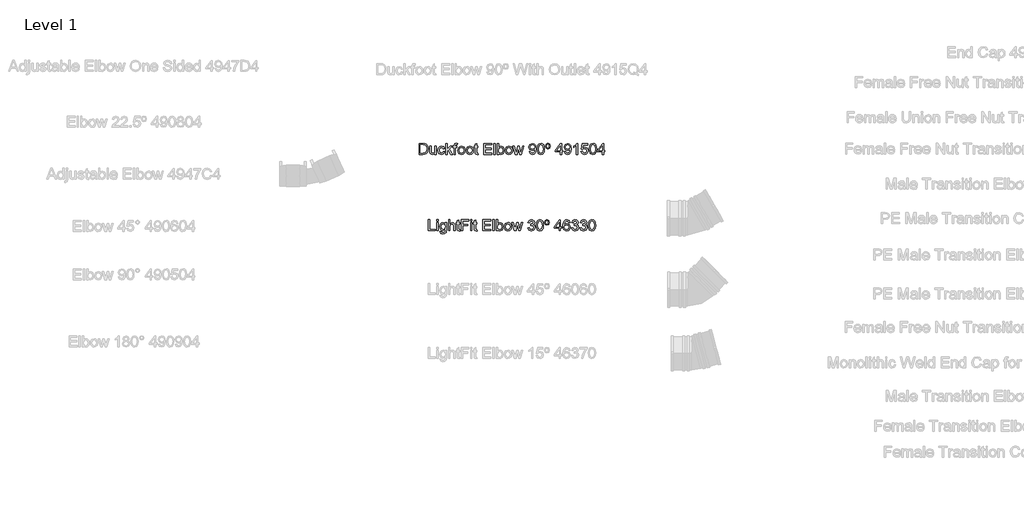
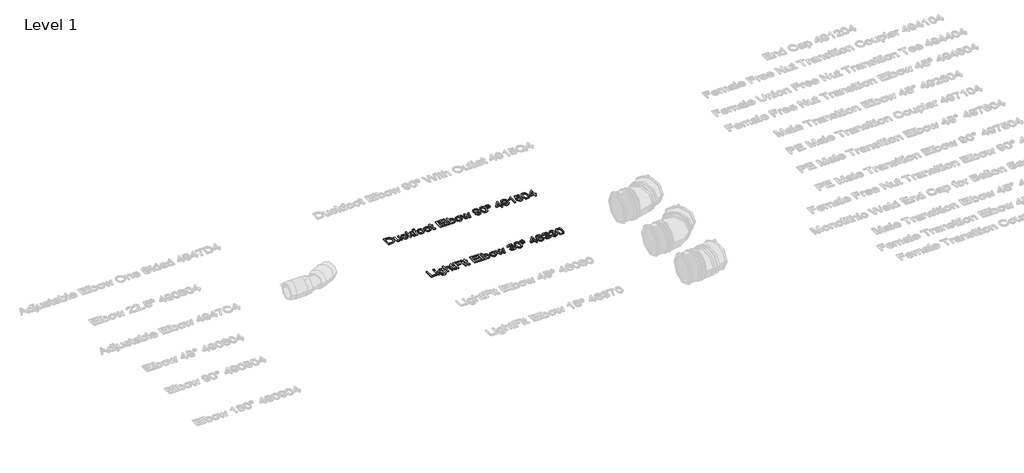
# One storey, part 16 of 38: 2 proxies.
"""IFC4 building model written with IfcOpenShell, lengths in millimetres."""

from ifc_helpers import new_model, si_unit, origin, origin_with_axes, place, context, project, spatial, polyline, outline, extrude, element, save

model = new_model("IFC4")

# Units and contexts
model_context = context("Model", 3, world=origin())
ifc_project = project(units=[si_unit("LENGTHUNIT", "METRE", prefix="MILLI")], contexts=[model_context])

# Site, building, storey
site = spatial("IfcSite", under=ifc_project)
building = spatial("IfcBuilding", under=site)
storey = spatial("IfcBuildingStorey", under=building, Name="Level 1", Elevation=0.0)

# Proxies
placement = place(None, origin())
element("IfcBuildingElementProxy", 1, Name="100 mm Arial", ObjectType="100 mm Arial", at=placement, inside=storey, context=model_context, shape_type="SweptSolid", body=[
    extrude(outline(polyline([(13189.6125419, 4561.9520671), (13189.6125419, 4621.0289902), (13209.9923496, 4621.0289902), (13220.5356188, 4620.1780287), (13229.2183111, 4615.9520671), (13236.2135034, 4605.8559133), (13238.5356188, 4591.8078364), (13236.9635034, 4579.8871633), (13232.9250419, 4571.2837979), (13227.5308111, 4565.9256248), (13220.470715, 4562.9616825), (13210.9731188, 4561.9520671), (13189.6125419, 4561.9520671)]), holes=[polyline([(13196.9971573, 4569.3366825), (13210.064465, 4569.3366825), (13219.5692727, 4570.4039902), (13225.0500419, 4573.4184133), (13229.5428304, 4580.7525479), (13231.1510034, 4591.923221), (13227.9995611, 4605.9136056), (13220.3336957, 4612.4616825), (13209.8625419, 4613.6443748), (13196.9971573, 4613.6443748), (13196.9971573, 4569.3366825)])]), origin_with_axes(), (0.0, 0.0, 1.0), 5.0),
    extrude(outline(polyline([(13275.4586957, 4561.9520671), (13275.4586957, 4569.4087979), (13269.6750419, 4563.1239421), (13262.1317727, 4561.0289902), (13255.1870611, 4562.500144), (13250.3985996, 4566.1924517), (13248.1990804, 4571.6299517), (13247.766388, 4578.4953364), (13247.766388, 4605.3366825), (13255.1510034, 4605.3366825), (13255.1510034, 4581.9712979), (13255.5981188, 4574.4424517), (13258.5187919, 4570.0217787), (13264.0211957, 4568.4136056), (13270.1870611, 4570.0578364), (13274.2615804, 4574.5362017), (13275.4586957, 4582.7645671), (13275.4586957, 4605.3366825), (13282.8433111, 4605.3366825), (13282.8433111, 4561.9520671), (13275.4586957, 4561.9520671)])), origin_with_axes(), (0.0, 0.0, 1.0), 5.0),
    extrude(outline(polyline([(13320.689465, 4577.6443748), (13328.0740804, 4576.7212979), (13322.1461957, 4565.1900479), (13310.4346573, 4561.0289902), (13302.579489, 4562.4803123), (13296.4370611, 4566.8342787), (13292.4725179, 4573.8997835), (13291.1510034, 4583.485721), (13293.408215, 4595.7525479), (13300.2880227, 4603.6347594), (13310.3336957, 4606.2597594), (13321.5620611, 4602.6539902), (13327.1510034, 4592.4136056), (13319.766388, 4591.4905287), (13316.3409073, 4597.0217787), (13310.391388, 4598.875144), (13301.8312919, 4595.2261056), (13298.5356188, 4583.687644), (13301.7591765, 4572.0410094), (13310.189465, 4568.4136056), (13317.1485996, 4570.6780287), (13320.689465, 4577.6443748)])), origin_with_axes(), (0.0, 0.0, 1.0), 5.0),
    extrude(outline(polyline([(13334.5356188, 4561.9520671), (13334.5356188, 4621.0289902), (13341.9202342, 4621.0289902), (13341.9202342, 4589.2837979), (13358.4779265, 4605.3366825), (13368.689465, 4605.3366825), (13351.9298496, 4589.0818748), (13369.6125419, 4561.9520671), (13360.9875419, 4561.9520671), (13346.6365804, 4583.9472594), (13341.9202342, 4579.375144), (13341.9202342, 4561.9520671), (13334.5356188, 4561.9520671)])), origin_with_axes(), (0.0, 0.0, 1.0), 5.0),
    extrude(outline(polyline([(13377.9202342, 4561.9520671), (13377.9202342, 4597.9520671), (13371.4586957, 4597.9520671), (13371.4586957, 4605.3366825), (13377.9202342, 4605.3366825), (13377.9202342, 4609.7068748), (13378.6990804, 4615.8655287), (13382.4779265, 4620.2645671), (13389.9202342, 4621.9520671), (13396.6558111, 4621.1443748), (13395.5740804, 4614.2212979), (13391.3192727, 4614.5674517), (13386.6678304, 4613.3414902), (13385.3048496, 4608.7693748), (13385.3048496, 4605.3366825), (13393.6125419, 4605.3366825), (13393.6125419, 4597.9520671), (13385.3048496, 4597.9520671), (13385.3048496, 4561.9520671), (13377.9202342, 4561.9520671)])), origin_with_axes(), (0.0, 0.0, 1.0), 5.0),
    extrude(outline(polyline([(13398.2279265, 4583.6443748), (13399.8252823, 4594.1047114), (13404.6173496, 4601.4568748), (13417.626965, 4606.2597594), (13425.3847775, 4604.79762), (13431.5812919, 4600.4112017), (13435.6431909, 4593.4466585), (13436.9971573, 4584.250144), (13434.6029265, 4571.110721), (13427.6293688, 4563.6756248), (13417.626965, 4561.0289902), (13409.7754025, 4562.485721), (13403.5860996, 4566.8559133), (13399.5674698, 4573.9664902), (13398.2279265, 4583.6443748)]), holes=[polyline([(13405.6125419, 4583.6587979), (13409.0308111, 4572.2140864), (13417.626965, 4568.4136056), (13426.1942727, 4572.235721), (13429.6125419, 4583.8895671), (13426.172638, 4595.0746633), (13417.626965, 4598.875144), (13409.0308111, 4595.0890864), (13405.6125419, 4583.6587979)])]), origin_with_axes(), (0.0, 0.0, 1.0), 5.0),
    extrude(outline(polyline([(13443.4586957, 4583.6443748), (13445.0560515, 4594.1047114), (13449.8481188, 4601.4568748), (13462.8577342, 4606.2597594), (13470.6155467, 4604.79762), (13476.8120611, 4600.4112017), (13480.8739602, 4593.4466585), (13482.2279265, 4584.250144), (13479.8336957, 4571.110721), (13472.860138, 4563.6756248), (13462.8577342, 4561.0289902), (13455.0061717, 4562.485721), (13448.8168688, 4566.8559133), (13444.798239, 4573.9664902), (13443.4586957, 4583.6443748)]), holes=[polyline([(13450.8433111, 4583.6587979), (13454.2615804, 4572.2140864), (13462.8577342, 4568.4136056), (13471.4250419, 4572.235721), (13474.8433111, 4583.8895671), (13471.4034073, 4595.0746633), (13462.8577342, 4598.875144), (13454.2615804, 4595.0890864), (13450.8433111, 4583.6587979)])]), origin_with_axes(), (0.0, 0.0, 1.0), 5.0),
    extrude(outline(polyline([(13506.2279265, 4568.110721), (13507.1510034, 4561.735721), (13501.626965, 4561.0289902), (13495.439465, 4562.2549517), (13492.3529265, 4565.4712979), (13491.4586957, 4573.8511056), (13491.4586957, 4597.9520671), (13485.9202342, 4597.9520671), (13485.9202342, 4605.3366825), (13491.4586957, 4605.3366825), (13491.4586957, 4615.8799517), (13498.8433111, 4620.2212979), (13498.8433111, 4605.3366825), (13506.2279265, 4605.3366825), (13506.2279265, 4597.9520671), (13498.8433111, 4597.9520671), (13498.8433111, 4574.0674517), (13499.2327342, 4570.2597594), (13500.4947534, 4568.9112017), (13503.0115804, 4568.4136056), (13506.2279265, 4568.110721)])), origin_with_axes(), (0.0, 0.0, 1.0), 5.0),
    extrude(outline(polyline([(13537.6125419, 4561.9520671), (13537.6125419, 4621.0289902), (13580.0740804, 4621.0289902), (13580.0740804, 4613.6443748), (13544.9971573, 4613.6443748), (13544.9971573, 4596.1059133), (13578.2279265, 4596.1059133), (13578.2279265, 4588.7212979), (13544.9971573, 4588.7212979), (13544.9971573, 4569.3366825), (13580.9971573, 4569.3366825), (13580.9971573, 4561.9520671), (13537.6125419, 4561.9520671)])), origin_with_axes(), (0.0, 0.0, 1.0), 5.0),
    extrude(outline(polyline([(13591.1510034, 4561.9520671), (13591.1510034, 4621.0289902), (13598.5356188, 4621.0289902), (13598.5356188, 4561.9520671), (13591.1510034, 4561.9520671)])), origin_with_axes(), (0.0, 0.0, 1.0), 5.0),
    extrude(outline(polyline([(13616.9971573, 4561.9520671), (13609.6125419, 4561.9520671), (13609.6125419, 4621.0289902), (13616.9971573, 4621.0289902), (13616.9971573, 4599.1203364), (13622.1678304, 4604.4749037), (13628.5933111, 4606.2597594), (13635.9923496, 4604.6515864), (13641.7327342, 4600.1299517), (13645.2591765, 4593.0987017), (13646.5356188, 4584.2934133), (13645.2141044, 4574.4352402), (13641.2495611, 4567.1011056), (13635.4316525, 4562.547019), (13628.5500419, 4561.0289902), (13621.9839361, 4562.9869229), (13616.9971573, 4568.860721), (13616.9971573, 4561.9520671)]), holes=[polyline([(13616.9971573, 4583.9472594), (13619.016388, 4573.6203364), (13627.9154265, 4568.4136056), (13635.8192727, 4572.250144), (13639.1510034, 4583.687644), (13635.9562919, 4595.1684133), (13628.2327342, 4598.875144), (13620.328888, 4595.0386056), (13616.9971573, 4583.9472594)])]), origin_with_axes(), (0.0, 0.0, 1.0), 5.0),
    extrude(outline(polyline([(13652.9971573, 4583.6443748), (13654.594513, 4594.1047114), (13659.3865804, 4601.4568748), (13672.3961957, 4606.2597594), (13680.1540082, 4604.79762), (13686.3505227, 4600.4112017), (13690.4124217, 4593.4466585), (13691.766388, 4584.250144), (13689.3721573, 4571.110721), (13682.3985996, 4563.6756248), (13672.3961957, 4561.0289902), (13664.5446332, 4562.485721), (13658.3553304, 4566.8559133), (13654.3367005, 4573.9664902), (13652.9971573, 4583.6443748)]), holes=[polyline([(13660.3817727, 4583.6587979), (13663.8000419, 4572.2140864), (13672.3961957, 4568.4136056), (13680.9635034, 4572.235721), (13684.3817727, 4583.8895671), (13680.9418688, 4595.0746633), (13672.3961957, 4598.875144), (13663.8000419, 4595.0890864), (13660.3817727, 4583.6587979)])]), origin_with_axes(), (0.0, 0.0, 1.0), 5.0),
    extrude(outline(polyline([(13707.2711957, 4561.9520671), (13694.0740804, 4605.3366825), (13701.7471573, 4605.3366825), (13709.2327342, 4580.0241825), (13711.4683111, 4570.9809133), (13713.3000419, 4579.6924517), (13719.2567727, 4605.3366825), (13728.0548496, 4605.3366825), (13733.9827342, 4579.7645671), (13735.6125419, 4571.875144), (13737.9490804, 4580.1972594), (13745.4490804, 4605.3366825), (13753.1510034, 4605.3366825), (13739.8529265, 4561.9520671), (13730.9250419, 4561.9520671), (13725.2567727, 4587.3943748), (13723.6125419, 4595.3270671), (13716.3000419, 4561.9520671), (13707.2711957, 4561.9520671)])), origin_with_axes(), (0.0, 0.0, 1.0), 5.0),
    extrude(outline(polyline([(13780.3817727, 4576.7212979), (13787.766388, 4577.6443748), (13791.0836957, 4570.5987017), (13797.3721573, 4568.4136056), (13803.3505227, 4569.8198556), (13807.4034073, 4573.5770671), (13809.8192727, 4579.9953364), (13810.8865804, 4588.562644), (13804.9370611, 4584.4087979), (13796.8385034, 4582.2597594), (13784.4995611, 4587.5097594), (13779.4586957, 4601.3414902), (13784.7447534, 4615.6203364), (13797.9923496, 4621.0289902), (13808.5139842, 4617.9424517), (13815.7543688, 4609.1443748), (13818.2279265, 4592.6155287), (13815.7615804, 4574.6804325), (13808.4274457, 4564.5193748), (13797.0260034, 4561.0289902), (13785.6750419, 4565.1467787), (13780.3817727, 4576.7212979)]), holes=[polyline([(13810.8433111, 4601.5145671), (13807.6558111, 4610.3703364), (13799.189465, 4613.6443748), (13790.3048496, 4610.1179325), (13786.8433111, 4600.9809133), (13790.1173496, 4592.7958171), (13798.9875419, 4589.6443748), (13807.5043688, 4592.7958171), (13810.8433111, 4601.5145671)])]), origin_with_axes(), (0.0, 0.0, 1.0), 5.0),
    extrude(outline(polyline([(13824.689465, 4591.0145671), (13826.860138, 4608.0121633), (13833.3072534, 4617.812644), (13844.0740804, 4621.0289902), (13852.6990804, 4619.125144), (13858.6558111, 4613.6371633), (13862.1173496, 4604.8967787), (13863.4586957, 4591.0145671), (13861.3096573, 4574.0890864), (13854.8841765, 4564.266971), (13844.0740804, 4561.0289902), (13836.4010034, 4562.4352402), (13830.5740804, 4566.6539902), (13826.1606188, 4576.6455767), (13824.689465, 4591.0145671)]), holes=[polyline([(13832.0740804, 4591.0289902), (13835.5356188, 4572.6900479), (13844.0740804, 4568.4136056), (13852.6125419, 4572.704471), (13856.0740804, 4591.0289902), (13852.7279265, 4609.1587979), (13843.9875419, 4613.6443748), (13835.6510034, 4609.6924517), (13832.0740804, 4591.0289902)])]), origin_with_axes(), (0.0, 0.0, 1.0), 5.0),
    extrude(outline(polyline([(13881.4586957, 4621.9520671), (13891.1077342, 4617.8991825), (13894.8433111, 4606.7068748), (13891.0860996, 4595.5434133), (13881.501965, 4591.4905287), (13871.8312919, 4595.4640864), (13868.0740804, 4606.5337979), (13871.8096573, 4617.8991825), (13881.4586957, 4621.9520671)]), holes=[polyline([(13881.4586957, 4616.4136056), (13877.110138, 4614.141971), (13875.4586957, 4606.7212979), (13877.1389842, 4599.3655287), (13881.4586957, 4597.0289902), (13885.7928304, 4599.3655287), (13887.4586957, 4606.923221), (13885.7784073, 4614.0987017), (13881.4586957, 4616.4136056)])]), origin_with_axes(), (0.0, 0.0, 1.0), 5.0),
    extrude(outline(polyline([(13947.4586957, 4561.9520671), (13947.4586957, 4575.798221), (13920.689465, 4575.798221), (13920.689465, 4583.1828364), (13949.3048496, 4620.1059133), (13954.8433111, 4620.1059133), (13954.8433111, 4583.1828364), (13962.2279265, 4583.1828364), (13962.2279265, 4575.798221), (13954.8433111, 4575.798221), (13954.8433111, 4561.9520671), (13947.4586957, 4561.9520671)]), holes=[polyline([(13947.4586957, 4583.1828364), (13947.4586957, 4606.000144), (13929.7760034, 4583.1828364), (13947.4586957, 4583.1828364)])]), origin_with_axes(), (0.0, 0.0, 1.0), 5.0),
    extrude(outline(polyline([(13969.6125419, 4576.7212979), (13976.9971573, 4577.6443748), (13980.314465, 4570.5987017), (13986.6029265, 4568.4136056), (13992.5812919, 4569.8198556), (13996.6341765, 4573.5770671), (13999.0500419, 4579.9953364), (14000.1173496, 4588.562644), (13994.1678304, 4584.4087979), (13986.0692727, 4582.2597594), (13973.7303304, 4587.5097594), (13968.689465, 4601.3414902), (13973.9755227, 4615.6203364), (13987.2231188, 4621.0289902), (13997.7447534, 4617.9424517), (14004.985138, 4609.1443748), (14007.4586957, 4592.6155287), (14004.9923496, 4574.6804325), (13997.658215, 4564.5193748), (13986.2567727, 4561.0289902), (13974.9058111, 4565.1467787), (13969.6125419, 4576.7212979)]), holes=[polyline([(14000.0740804, 4601.5145671), (13996.8865804, 4610.3703364), (13988.4202342, 4613.6443748), (13979.5356188, 4610.1179325), (13976.0740804, 4600.9809133), (13979.3481188, 4592.7958171), (13988.2183111, 4589.6443748), (13996.735138, 4592.7958171), (14000.0740804, 4601.5145671)])]), origin_with_axes(), (0.0, 0.0, 1.0), 5.0),
    extrude(outline(polyline([(14041.6125419, 4561.9520671), (14034.2279265, 4561.9520671), (14034.2279265, 4607.9905287), (14027.2327342, 4603.0073556), (14019.4586957, 4599.2789902), (14019.4586957, 4606.2597594), (14030.283215, 4613.1684133), (14036.8529265, 4621.0289902), (14041.6125419, 4621.0289902), (14041.6125419, 4561.9520671)])), origin_with_axes(), (0.0, 0.0, 1.0), 5.0),
    extrude(outline(polyline([(14059.1510034, 4577.6443748), (14066.5356188, 4578.5674517), (14070.2567727, 4570.9592787), (14077.9731188, 4568.4136056), (14087.2327342, 4571.954471), (14090.5356188, 4581.3511056), (14087.4418688, 4590.1203364), (14078.0885034, 4593.3366825), (14071.6053304, 4592.0530287), (14067.4586957, 4588.7212979), (14060.0740804, 4589.6443748), (14066.5356188, 4620.1059133), (14095.1510034, 4620.1059133), (14095.1510034, 4612.7212979), (14072.5067727, 4612.7212979), (14069.3481188, 4596.4520671), (14080.1510034, 4600.7212979), (14092.7784073, 4595.4280287), (14097.9202342, 4581.812644), (14093.2904265, 4568.110721), (14086.641388, 4562.7994229), (14077.9442727, 4561.0289902), (14064.9130227, 4565.579471), (14059.1510034, 4577.6443748)])), origin_with_axes(), (0.0, 0.0, 1.0), 5.0),
    extrude(outline(polyline([(14104.3817727, 4591.0145671), (14106.5524457, 4608.0121633), (14112.9995611, 4617.812644), (14123.766388, 4621.0289902), (14132.391388, 4619.125144), (14138.3481188, 4613.6371633), (14141.8096573, 4604.8967787), (14143.1510034, 4591.0145671), (14141.001965, 4574.0890864), (14134.5764842, 4564.266971), (14123.766388, 4561.0289902), (14116.0933111, 4562.4352402), (14110.266388, 4566.6539902), (14105.8529265, 4576.6455767), (14104.3817727, 4591.0145671)]), holes=[polyline([(14111.766388, 4591.0289902), (14115.2279265, 4572.6900479), (14123.766388, 4568.4136056), (14132.3048496, 4572.704471), (14135.766388, 4591.0289902), (14132.4202342, 4609.1587979), (14123.6798496, 4613.6443748), (14115.3433111, 4609.6924517), (14111.766388, 4591.0289902)])]), origin_with_axes(), (0.0, 0.0, 1.0), 5.0),
    extrude(outline(polyline([(14173.6125419, 4561.9520671), (14173.6125419, 4575.798221), (14146.8433111, 4575.798221), (14146.8433111, 4583.1828364), (14175.4586957, 4620.1059133), (14180.9971573, 4620.1059133), (14180.9971573, 4583.1828364), (14188.3817727, 4583.1828364), (14188.3817727, 4575.798221), (14180.9971573, 4575.798221), (14180.9971573, 4561.9520671), (14173.6125419, 4561.9520671)]), holes=[polyline([(14173.6125419, 4583.1828364), (14173.6125419, 4606.000144), (14155.9298496, 4583.1828364), (14173.6125419, 4583.1828364)])]), origin_with_axes(), (0.0, 0.0, 1.0), 5.0),
])
element("IfcBuildingElementProxy", 2, Name="100 mm Arial", ObjectType="100 mm Arial", at=placement, inside=storey, context=model_context, shape_type="SweptSolid", body=[
    extrude(outline(polyline([(13240.3817727, 4151.5291703), (13240.3817727, 4210.6060934), (13247.766388, 4210.6060934), (13247.766388, 4158.9137857), (13277.3048496, 4158.9137857), (13277.3048496, 4151.5291703), (13240.3817727, 4151.5291703)])), origin_with_axes(), (0.0, 0.0, 1.0), 5.0),
    extrude(outline(polyline([(13284.689465, 4203.221478), (13284.689465, 4210.6060934), (13292.0740804, 4210.6060934), (13292.0740804, 4203.221478), (13284.689465, 4203.221478)])), origin_with_axes(), (0.0, 0.0, 1.0), 5.0),
    extrude(outline(polyline([(13284.689465, 4151.5291703), (13284.689465, 4194.9137857), (13292.0740804, 4194.9137857), (13292.0740804, 4151.5291703), (13284.689465, 4151.5291703)])), origin_with_axes(), (0.0, 0.0, 1.0), 5.0),
    extrude(outline(polyline([(13301.3048496, 4147.8368626), (13308.689465, 4146.9137857), (13311.0836957, 4143.0195549), (13318.251965, 4141.3753242), (13325.8096573, 4143.2359011), (13329.4154265, 4148.4570549), (13329.9202342, 4157.0676319), (13318.3817727, 4151.5291703), (13310.7681909, 4153.1409492), (13305.0909073, 4157.9762857), (13300.3817727, 4173.4378242), (13302.4947534, 4184.8825357), (13308.610138, 4192.9810934), (13318.0211957, 4195.8368626), (13324.6089361, 4194.221478), (13329.9202342, 4189.3753242), (13329.9202342, 4194.9137857), (13337.3048496, 4194.9137857), (13337.3048496, 4157.4570549), (13335.2856188, 4143.1133049), (13328.8889842, 4136.4426319), (13318.1077342, 4133.9907088), (13305.8264842, 4137.4450357), (13301.3048496, 4147.8368626)]), holes=[polyline([(13307.766388, 4173.9426319), (13310.9178304, 4162.5123434), (13318.828888, 4158.9137857), (13326.7255227, 4162.4907088), (13329.9202342, 4173.7262857), (13326.6317727, 4184.7383049), (13318.7135034, 4188.4522472), (13310.9610996, 4184.7959972), (13307.766388, 4173.9426319)])]), origin_with_axes(), (0.0, 0.0, 1.0), 5.0),
    extrude(outline(polyline([(13348.3817727, 4151.5291703), (13348.3817727, 4210.6060934), (13355.766388, 4210.6060934), (13355.766388, 4188.8849395), (13361.5248015, 4194.0988819), (13368.6173496, 4195.8368626), (13376.9106188, 4193.940228), (13381.9442727, 4188.6974395), (13383.4586957, 4178.9907088), (13383.4586957, 4151.5291703), (13376.0740804, 4151.5291703), (13376.0740804, 4178.2262857), (13373.7231188, 4186.0147472), (13367.0596573, 4188.4522472), (13361.0091765, 4186.8080165), (13356.970715, 4182.3512857), (13355.766388, 4174.5772472), (13355.766388, 4151.5291703), (13348.3817727, 4151.5291703)])), origin_with_axes(), (0.0, 0.0, 1.0), 5.0),
    extrude(outline(polyline([(13409.3048496, 4157.6878242), (13410.2279265, 4151.3128242), (13404.703888, 4150.6060934), (13398.516388, 4151.8320549), (13395.4298496, 4155.0484011), (13394.5356188, 4163.4282088), (13394.5356188, 4187.5291703), (13388.9971573, 4187.5291703), (13388.9971573, 4194.9137857), (13394.5356188, 4194.9137857), (13394.5356188, 4205.4570549), (13401.9202342, 4209.7984011), (13401.9202342, 4194.9137857), (13409.3048496, 4194.9137857), (13409.3048496, 4187.5291703), (13401.9202342, 4187.5291703), (13401.9202342, 4163.6445549), (13402.3096573, 4159.8368626), (13403.5716765, 4158.4883049), (13406.0885034, 4157.9907088), (13409.3048496, 4157.6878242)])), origin_with_axes(), (0.0, 0.0, 1.0), 5.0),
    extrude(outline(polyline([(13417.6125419, 4151.5291703), (13417.6125419, 4210.6060934), (13457.3048496, 4210.6060934), (13457.3048496, 4203.221478), (13424.9971573, 4203.221478), (13424.9971573, 4185.6830165), (13452.689465, 4185.6830165), (13452.689465, 4178.2984011), (13424.9971573, 4178.2984011), (13424.9971573, 4151.5291703), (13417.6125419, 4151.5291703)])), origin_with_axes(), (0.0, 0.0, 1.0), 5.0),
    extrude(outline(polyline([(13466.5356188, 4151.5291703), (13466.5356188, 4194.9137857), (13473.9202342, 4194.9137857), (13473.9202342, 4151.5291703), (13466.5356188, 4151.5291703)])), origin_with_axes(), (0.0, 0.0, 1.0), 5.0),
    extrude(outline(polyline([(13466.5356188, 4203.221478), (13466.5356188, 4210.6060934), (13473.9202342, 4210.6060934), (13473.9202342, 4203.221478), (13466.5356188, 4203.221478)])), origin_with_axes(), (0.0, 0.0, 1.0), 5.0),
    extrude(outline(polyline([(13500.689465, 4157.6878242), (13501.6125419, 4151.3128242), (13496.0885034, 4150.6060934), (13489.9010034, 4151.8320549), (13486.814465, 4155.0484011), (13485.9202342, 4163.4282088), (13485.9202342, 4187.5291703), (13480.3817727, 4187.5291703), (13480.3817727, 4194.9137857), (13485.9202342, 4194.9137857), (13485.9202342, 4205.4570549), (13493.3048496, 4209.7984011), (13493.3048496, 4194.9137857), (13500.689465, 4194.9137857), (13500.689465, 4187.5291703), (13493.3048496, 4187.5291703), (13493.3048496, 4163.6445549), (13493.6942727, 4159.8368626), (13494.9562919, 4158.4883049), (13497.4731188, 4157.9907088), (13500.689465, 4157.6878242)])), origin_with_axes(), (0.0, 0.0, 1.0), 5.0),
    extrude(outline(polyline([(13532.0740804, 4151.5291703), (13532.0740804, 4210.6060934), (13574.5356188, 4210.6060934), (13574.5356188, 4203.221478), (13539.4586957, 4203.221478), (13539.4586957, 4185.6830165), (13572.689465, 4185.6830165), (13572.689465, 4178.2984011), (13539.4586957, 4178.2984011), (13539.4586957, 4158.9137857), (13575.4586957, 4158.9137857), (13575.4586957, 4151.5291703), (13532.0740804, 4151.5291703)])), origin_with_axes(), (0.0, 0.0, 1.0), 5.0),
    extrude(outline(polyline([(13585.6125419, 4151.5291703), (13585.6125419, 4210.6060934), (13592.9971573, 4210.6060934), (13592.9971573, 4151.5291703), (13585.6125419, 4151.5291703)])), origin_with_axes(), (0.0, 0.0, 1.0), 5.0),
    extrude(outline(polyline([(13611.4586957, 4151.5291703), (13604.0740804, 4151.5291703), (13604.0740804, 4210.6060934), (13611.4586957, 4210.6060934), (13611.4586957, 4188.6974395), (13616.6293688, 4194.0520069), (13623.0548496, 4195.8368626), (13630.453888, 4194.2286895), (13636.1942727, 4189.7070549), (13639.720715, 4182.6758049), (13640.9971573, 4173.8705165), (13639.6756429, 4164.0123434), (13635.7110996, 4156.6782088), (13629.8931909, 4152.1241222), (13623.0115804, 4150.6060934), (13616.4454746, 4152.5640261), (13611.4586957, 4158.4378242), (13611.4586957, 4151.5291703)]), holes=[polyline([(13611.4586957, 4173.5243626), (13613.4779265, 4163.1974395), (13622.376965, 4157.9907088), (13630.2808111, 4161.8272472), (13633.6125419, 4173.2647472), (13630.4178304, 4184.7455165), (13622.6942727, 4188.4522472), (13614.7904265, 4184.6157088), (13611.4586957, 4173.5243626)])]), origin_with_axes(), (0.0, 0.0, 1.0), 5.0),
    extrude(outline(polyline([(13647.4586957, 4173.221478), (13649.0560515, 4183.6818145), (13653.8481188, 4191.033978), (13666.8577342, 4195.8368626), (13674.6155467, 4194.3747232), (13680.8120611, 4189.9883049), (13684.8739602, 4183.0237617), (13686.2279265, 4173.8272472), (13683.8336957, 4160.6878242), (13676.860138, 4153.252728), (13666.8577342, 4150.6060934), (13659.0061717, 4152.0628242), (13652.8168688, 4156.4330165), (13648.798239, 4163.5435934), (13647.4586957, 4173.221478)]), holes=[polyline([(13654.8433111, 4173.2359011), (13658.2615804, 4161.7911895), (13666.8577342, 4157.9907088), (13675.4250419, 4161.8128242), (13678.8433111, 4173.4666703), (13675.4034073, 4184.6517665), (13666.8577342, 4188.4522472), (13658.2615804, 4184.6661895), (13654.8433111, 4173.2359011)])]), origin_with_axes(), (0.0, 0.0, 1.0), 5.0),
    extrude(outline(polyline([(13701.7327342, 4151.5291703), (13688.5356188, 4194.9137857), (13696.2086957, 4194.9137857), (13703.6942727, 4169.6012857), (13705.9298496, 4160.5580165), (13707.7615804, 4169.2695549), (13713.7183111, 4194.9137857), (13722.516388, 4194.9137857), (13728.4442727, 4169.3416703), (13730.0740804, 4161.4522472), (13732.4106188, 4169.7743626), (13739.9106188, 4194.9137857), (13747.6125419, 4194.9137857), (13734.314465, 4151.5291703), (13725.3865804, 4151.5291703), (13719.7183111, 4176.971478), (13718.0740804, 4184.9041703), (13710.7615804, 4151.5291703), (13701.7327342, 4151.5291703)])), origin_with_axes(), (0.0, 0.0, 1.0), 5.0),
    extrude(outline(polyline([(13773.9202342, 4167.221478), (13781.3048496, 4168.1445549), (13785.3793688, 4160.3705165), (13793.001965, 4157.9907088), (13801.9731188, 4161.2647472), (13805.3048496, 4169.3705165), (13802.001965, 4177.0075357), (13793.6077342, 4180.0291703), (13788.4298496, 4179.221478), (13789.251965, 4186.6060934), (13798.814465, 4188.6397472), (13802.5356188, 4195.158978), (13799.8385034, 4200.9354203), (13792.8865804, 4203.221478), (13785.8481188, 4200.9137857), (13782.2279265, 4193.9907088), (13774.8433111, 4194.9137857), (13780.8865804, 4206.4955165), (13792.626965, 4210.6060934), (13801.533215, 4208.5796511), (13807.7639842, 4203.0411895), (13809.9202342, 4195.5916703), (13807.8721573, 4188.783978), (13801.814465, 4183.8945549), (13809.8625419, 4178.846478), (13812.689465, 4169.2407088), (13807.0356188, 4156.0291703), (13792.7423496, 4150.6060934), (13779.7904265, 4155.2359011), (13773.9202342, 4167.221478)])), origin_with_axes(), (0.0, 0.0, 1.0), 5.0),
    extrude(outline(polyline([(13819.1510034, 4180.5916703), (13821.3216765, 4197.5892665), (13827.7687919, 4207.3897472), (13838.5356188, 4210.6060934), (13847.1606188, 4208.7022472), (13853.1173496, 4203.2142665), (13856.578888, 4194.4738819), (13857.9202342, 4180.5916703), (13855.7711957, 4163.6661895), (13849.345715, 4153.8440742), (13838.5356188, 4150.6060934), (13830.8625419, 4152.0123434), (13825.0356188, 4156.2310934), (13820.6221573, 4166.2226799), (13819.1510034, 4180.5916703)]), holes=[polyline([(13826.5356188, 4180.6060934), (13829.9971573, 4162.2671511), (13838.5356188, 4157.9907088), (13847.0740804, 4162.2815742), (13850.5356188, 4180.6060934), (13847.189465, 4198.7359011), (13838.4490804, 4203.221478), (13830.1125419, 4199.2695549), (13826.5356188, 4180.6060934)])]), origin_with_axes(), (0.0, 0.0, 1.0), 5.0),
    extrude(outline(polyline([(13875.9202342, 4211.5291703), (13885.5692727, 4207.4762857), (13889.3048496, 4196.283978), (13885.547638, 4185.1205165), (13875.9635034, 4181.0676319), (13866.2928304, 4185.0411895), (13862.5356188, 4196.1109011), (13866.2711957, 4207.4762857), (13875.9202342, 4211.5291703)]), holes=[polyline([(13875.9202342, 4205.9907088), (13871.5716765, 4203.7190742), (13869.9202342, 4196.2984011), (13871.6005227, 4188.9426319), (13875.9202342, 4186.6060934), (13880.2543688, 4188.9426319), (13881.9202342, 4196.5003242), (13880.2399457, 4203.6758049), (13875.9202342, 4205.9907088)])]), origin_with_axes(), (0.0, 0.0, 1.0), 5.0),
    extrude(outline(polyline([(13941.9202342, 4151.5291703), (13941.9202342, 4165.3753242), (13915.1510034, 4165.3753242), (13915.1510034, 4172.7599395), (13943.766388, 4209.6830165), (13949.3048496, 4209.6830165), (13949.3048496, 4172.7599395), (13956.689465, 4172.7599395), (13956.689465, 4165.3753242), (13949.3048496, 4165.3753242), (13949.3048496, 4151.5291703), (13941.9202342, 4151.5291703)]), holes=[polyline([(13941.9202342, 4172.7599395), (13941.9202342, 4195.5772472), (13924.2375419, 4172.7599395), (13941.9202342, 4172.7599395)])]), origin_with_axes(), (0.0, 0.0, 1.0), 5.0),
    extrude(outline(polyline([(14000.9971573, 4194.9137857), (13993.6125419, 4193.9907088), (13990.814465, 4200.1493626), (13983.4154265, 4203.221478), (13976.751965, 4201.4330165), (13971.7110996, 4194.7190742), (13969.6125419, 4181.5580165), (13976.1245611, 4187.4498434), (13984.1942727, 4189.3753242), (13996.7423496, 4184.1109011), (14001.9202342, 4170.5099395), (13999.4827342, 4160.3200357), (13992.7760034, 4153.1084972), (13983.0981188, 4150.6060934), (13974.720114, 4152.2647472), (13968.047638, 4157.2407088), (13963.6828544, 4166.0243626), (13962.2279265, 4179.1060934), (13963.8433111, 4193.8140261), (13968.689465, 4203.8705165), (13975.3060515, 4208.9221992), (13983.876965, 4210.6060934), (13995.5452342, 4206.4378242), (14000.9971573, 4194.9137857)]), holes=[polyline([(13969.6125419, 4170.6253242), (13971.3216765, 4164.2286895), (13975.8649457, 4159.5844588), (13982.5211957, 4157.9907088), (13991.2255227, 4161.2935934), (13994.5356188, 4170.2647472), (13991.2687919, 4178.8536895), (13982.2183111, 4181.9907088), (13973.283215, 4178.8536895), (13969.6125419, 4170.6253242)])]), origin_with_axes(), (0.0, 0.0, 1.0), 5.0),
    extrude(outline(polyline([(14008.3817727, 4167.221478), (14015.766388, 4168.1445549), (14019.8409073, 4160.3705165), (14027.4635034, 4157.9907088), (14036.4346573, 4161.2647472), (14039.766388, 4169.3705165), (14036.4635034, 4177.0075357), (14028.0692727, 4180.0291703), (14022.891388, 4179.221478), (14023.7135034, 4186.6060934), (14033.2760034, 4188.6397472), (14036.9971573, 4195.158978), (14034.3000419, 4200.9354203), (14027.3481188, 4203.221478), (14020.3096573, 4200.9137857), (14016.689465, 4193.9907088), (14009.3048496, 4194.9137857), (14015.3481188, 4206.4955165), (14027.0885034, 4210.6060934), (14035.9947534, 4208.5796511), (14042.2255227, 4203.0411895), (14044.3817727, 4195.5916703), (14042.3336957, 4188.783978), (14036.2760034, 4183.8945549), (14044.3240804, 4178.846478), (14047.1510034, 4169.2407088), (14041.4971573, 4156.0291703), (14027.203888, 4150.6060934), (14014.251965, 4155.2359011), (14008.3817727, 4167.221478)])), origin_with_axes(), (0.0, 0.0, 1.0), 5.0),
    extrude(outline(polyline([(14053.6125419, 4167.221478), (14060.9971573, 4168.1445549), (14065.0716765, 4160.3705165), (14072.6942727, 4157.9907088), (14081.6654265, 4161.2647472), (14084.9971573, 4169.3705165), (14081.6942727, 4177.0075357), (14073.3000419, 4180.0291703), (14068.1221573, 4179.221478), (14068.9442727, 4186.6060934), (14078.5067727, 4188.6397472), (14082.2279265, 4195.158978), (14079.5308111, 4200.9354203), (14072.578888, 4203.221478), (14065.5404265, 4200.9137857), (14061.9202342, 4193.9907088), (14054.5356188, 4194.9137857), (14060.578888, 4206.4955165), (14072.3192727, 4210.6060934), (14081.2255227, 4208.5796511), (14087.4562919, 4203.0411895), (14089.6125419, 4195.5916703), (14087.564465, 4188.783978), (14081.5067727, 4183.8945549), (14089.5548496, 4178.846478), (14092.3817727, 4169.2407088), (14086.7279265, 4156.0291703), (14072.4346573, 4150.6060934), (14059.4827342, 4155.2359011), (14053.6125419, 4167.221478)])), origin_with_axes(), (0.0, 0.0, 1.0), 5.0),
    extrude(outline(polyline([(14098.8433111, 4180.5916703), (14101.0139842, 4197.5892665), (14107.4610996, 4207.3897472), (14118.2279265, 4210.6060934), (14126.8529265, 4208.7022472), (14132.8096573, 4203.2142665), (14136.2711957, 4194.4738819), (14137.6125419, 4180.5916703), (14135.4635034, 4163.6661895), (14129.0380227, 4153.8440742), (14118.2279265, 4150.6060934), (14110.5548496, 4152.0123434), (14104.7279265, 4156.2310934), (14100.314465, 4166.2226799), (14098.8433111, 4180.5916703)]), holes=[polyline([(14106.2279265, 4180.6060934), (14109.689465, 4162.2671511), (14118.2279265, 4157.9907088), (14126.766388, 4162.2815742), (14130.2279265, 4180.6060934), (14126.8817727, 4198.7359011), (14118.141388, 4203.221478), (14109.8048496, 4199.2695549), (14106.2279265, 4180.6060934)])]), origin_with_axes(), (0.0, 0.0, 1.0), 5.0),
])

save(model, "model.ifc")
